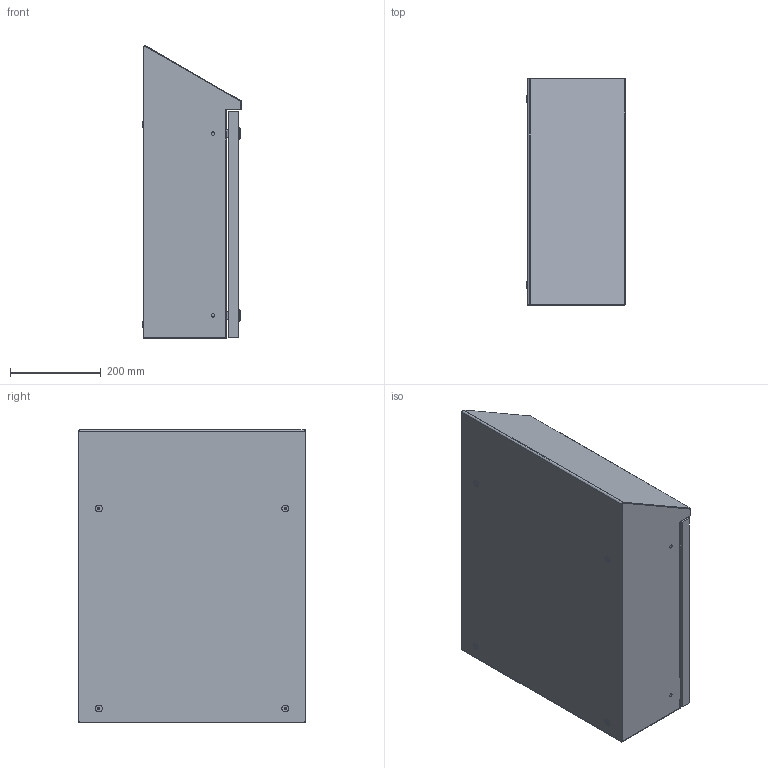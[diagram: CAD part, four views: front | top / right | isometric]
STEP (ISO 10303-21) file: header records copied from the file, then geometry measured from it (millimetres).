
FILE_DESCRIPTION(/* description */ ('Unknown'),/* implementation_level */ '2;1');
FILE_NAME(/* name */ 'CHA05005021',/* time_stamp */ '2024-10-08T09:58:17+02:00',/* author */ ('Unknown'),/* organization */ ('Unknown'),/* preprocessor_version */ 'ST-DEVELOPER v19.4',/* originating_system */ 'Solid Edge',/* authorisation */ 'Unknown');
FILE_SCHEMA (('CONFIG_CONTROL_DESIGN'));
Length unit declared in the file: millimetre
Products named in the file (16): CHA05005021; C000X003.67; C0000002.98; C0000000.04; AE00891.02; C0000000.01; C0000000.05; AE00316.01; AE00601.01; AE00417.01; C000X000.31_oa_0; C000X000.32_oa_1; C0000000.36; C0000000.02; AE00198.02; AE00989.09
Assembly tree (33 placements, depth 4):
  CHA05005021
    C000X003.67
      C0000002.98
      C0000000.04  x4
      AE00891.02  x2
      C0000000.01  x2
      C0000000.05  x4
      AE00316.01  x2
      AE00601.01  x2
      AE00417.01  x4
    C000X000.31_oa_0
      C000X000.32_oa_1
        C0000000.36
      C0000000.02  x2
      AE00198.02  x2
      AE00989.09  x2
      AE00417.01  x2
Bounding box: 216 x 500.11 x 643.05 mm (x, y, z)
Volume: 1903776.5 mm3; surface area: 2258999.1 mm2
Topology: 32 solids, 32 shells, 687 faces, 1691 edges, 1093 vertices
Faces by surface type: plane 448, cylinder 164, cone 34, torus 32, bspline 9
Full cylindrical faces by diameter (mm): 4 x2, 4.917 x6, 4.918 x2, 5.4 x2, 6 x12, 6.4 x2, 7.5 x6, 8 x4, 8.376 x8, 10 x6, 10.25 x4, 10.5 x2, 11 x2, 13.6 x2, 14 x4, 15 x4, 16 x4, 16.3 x2, 19.5 x2, 28 x2
Entity records: 13081 total; most frequent: CARTESIAN_POINT 2333, DIRECTION 1864, ORIENTED_EDGE 1806, EDGE_CURVE 903, LINE 636, VECTOR 636, AXIS2_PLACEMENT_3D 614, VERTEX_POINT 609
